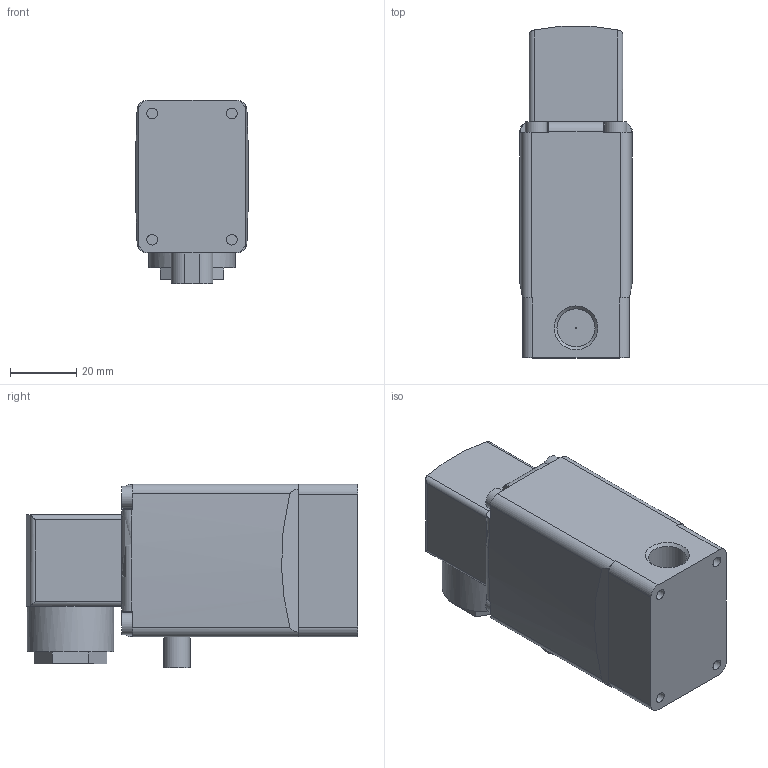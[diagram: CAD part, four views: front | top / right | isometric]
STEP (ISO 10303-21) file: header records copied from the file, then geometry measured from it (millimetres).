
FILE_DESCRIPTION( ( 'STEP AP214' ), '1' );
FILE_NAME( 'p:/temp/worker_7/temp/app_56_02018110104242193634808192d056f_000000_00_00_000000/format_0/0330-042107-Direct-acting_2_2-_or_3_2-way_pivoted_armature_valve.stp', '2018-11-01T03:24:22', ( '' ), ( '' ), ' ', 'PARTsolutions', ' ' );
FILE_SCHEMA( ( 'AUTOMOTIVE_DESIGN { 1 0 10303 214 1 1 1 1 }' ) );
Length unit declared in the file: millimetre
Products named in the file (1): HI_0330-042107-Direct-acting 2/2- or 3/2-way pivoted armature valve
Bounding box: 33.99 x 99.85 x 55.3 mm (x, y, z)
Volume: 133441.7 mm3; surface area: 20926.6 mm2
Topology: 1 solids, 2 shells, 100 faces, 240 edges, 158 vertices
Faces by surface type: plane 55, cylinder 40, cone 3, torus 2
Full cylindrical faces by diameter (mm): 0.2 x1, 2.46 x1, 3.24 x4, 6.6 x4, 10.5 x1, 11.445 x3, 26 x1
Entity records: 3718 total; most frequent: CARTESIAN_POINT 571, DIRECTION 510, ORIENTED_EDGE 440, EDGE_CURVE 220, AXIS2_PLACEMENT_3D 199, VERTEX_POINT 156, EDGE_LOOP 134, FACE_OUTER_BOUND 115
